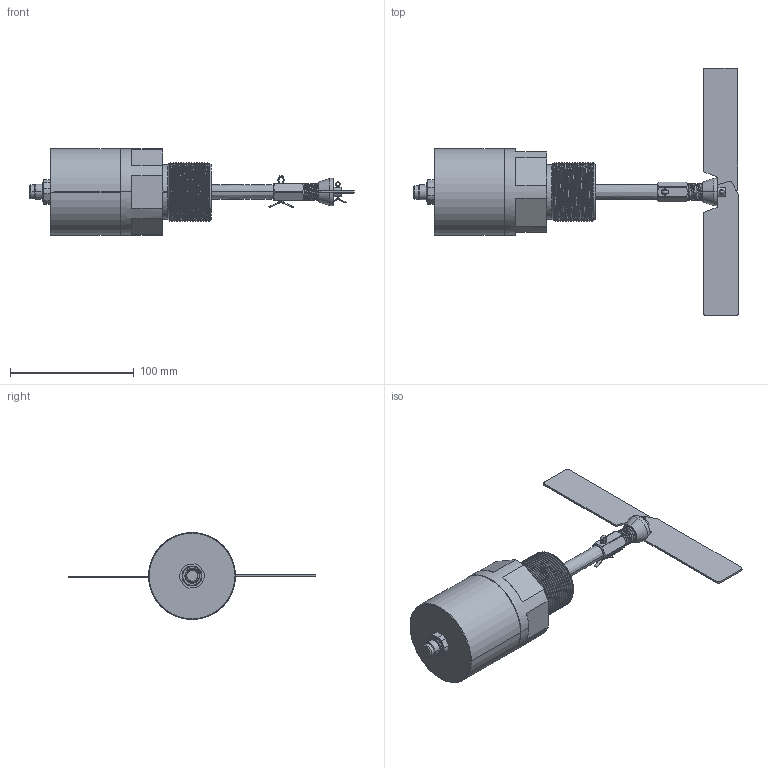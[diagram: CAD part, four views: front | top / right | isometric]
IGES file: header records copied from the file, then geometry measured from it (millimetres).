
Start section: SolidWorks IGES file using analytic representation for surfaces
Global section: file name: C:\Users\Äîì\Desktop\Äàò÷èêè ìîäåëè\P3 24VDC\Ñêëàäíàÿ ëîïàñòü\Eiiian\MBA888_24V ðåçüáà.IGS; native system: SolidWorks 2020; preprocessor: SolidWorks 2020; author: Äîì; date: 210228.144148; units: millimetre
Bounding box: 262 x 200 x 70 mm (x, y, z)
Surface area: 90633.8 mm2 (no closed solid volume)
Topology: 0 solids, 0 shells, 418 faces, 6402 edges, 6398 vertices
Faces by surface type: revolution 238, bspline 180
